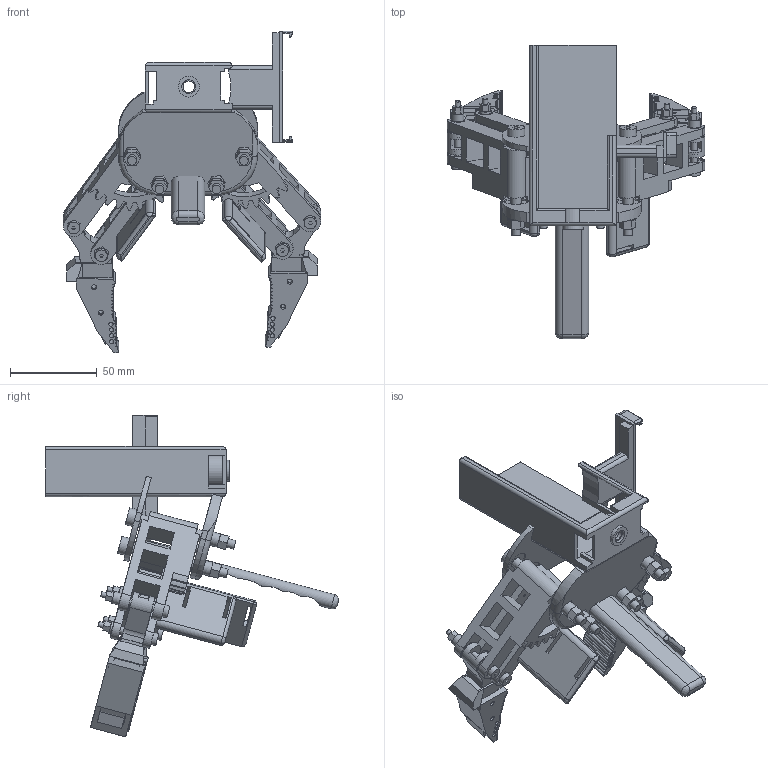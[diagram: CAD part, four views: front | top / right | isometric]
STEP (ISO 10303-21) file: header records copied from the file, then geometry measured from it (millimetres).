
FILE_DESCRIPTION(('Open CASCADE Model'),'2;1');
FILE_NAME('Open CASCADE Shape Model','2026-11-14T12:29:53',('Author'),( 'Open CASCADE'),'Open CASCADE STEP processor 8.0','Open CASCADE 8.0' ,'Unknown');
FILE_SCHEMA(('AUTOMOTIVE_DESIGN { 1 0 10303 214 1 1 1 1 }'));
Length unit declared in the file: millimetre
Products named in the file (28): genumi-flexiv-gn01-with-pivot-fasteners; handheld-body; handheld-body-section-a; Open CASCADE STEP translator 8.0 1.1.1.1; d435-vive-tracker-bracket; Open CASCADE STEP translator 8.0 1.1.2; left-drive-gear-and-bearing; left-drive-gear-and-bearing-integrated-part; right-drive-gear-and-bearing; right-drive-gear-and-bearing-integrated-part; right-hand-left-finger-inner-link; right-hand-right-finger-inner-link; left-fingertip; left-fingertip-integrated-part; left-tpu-fingertip; right-tpu-fingertip; insta360-quick-release-spacer; shoulder-screw-d6-l50-m5; shoulder-spacer-d6-8.3mm; m5-locknut; stepped-shoulder-screw-d6-d5p45-l50-m5; shoulder-spacer-d5p45-8.3mm; pivot-reducer-bushing-d6p35-d5p52-1p8mm; shoulder-screw-d4-l30-m3; shoulder-spacer-d4-4.3mm; m3-locknut; shoulder-screw-d4-l25-m3; shoulder-spacer-d4-1.3mm
Assembly tree (42 placements, depth 4):
  genumi-flexiv-gn01-with-pivot-fasteners
    handheld-body
      handheld-body-section-a
        Open CASCADE STEP translator 8.0 1.1.1.1
        d435-vive-tracker-bracket
      Open CASCADE STEP translator 8.0 1.1.2
    left-drive-gear-and-bearing
      left-drive-gear-and-bearing-integrated-part
    right-drive-gear-and-bearing
      right-drive-gear-and-bearing-integrated-part
    right-hand-left-finger-inner-link
    right-hand-right-finger-inner-link
    left-fingertip  x2
      left-fingertip-integrated-part
    left-tpu-fingertip
    right-tpu-fingertip
    insta360-quick-release-spacer
    shoulder-screw-d6-l50-m5  x3
    shoulder-spacer-d6-8.3mm  x3
    m5-locknut  x4
    stepped-shoulder-screw-d6-d5p45-l50-m5
    shoulder-spacer-d5p45-8.3mm
    pivot-reducer-bushing-d6p35-d5p52-1p8mm
    shoulder-screw-d4-l30-m3  x2
    shoulder-spacer-d4-4.3mm  x2
    m3-locknut  x4
    shoulder-screw-d4-l25-m3  x2
    shoulder-spacer-d4-1.3mm  x2
Bounding box: 148.31 x 168.8 x 185.44 mm (x, y, z)
Volume: 217199.4 mm3; surface area: 147153.6 mm2
Topology: 37 solids, 37 shells, 1099 faces, 2834 edges, 1861 vertices
Faces by surface type: plane 694, cylinder 397, revolution 6, torus 2
Full cylindrical faces by diameter (mm): 1.5 x1, 2.5 x8, 3 x20, 4 x6, 4.1 x14, 4.12 x4, 5 x8, 5.45 x1, 5.52 x1, 5.62 x1, 6 x4, 6.12 x3, 6.16 x4, 6.35 x1, 6.4 x8, 6.6 x3, 7 x10, 7.9 x4, 8 x6, 10 x4, 10.5 x16, 12 x2, 14 x6, 18 x1
Entity records: 64242 total; most frequent: CARTESIAN_POINT 15137, DIRECTION 9234, LINE 5560, VECTOR 5560, ORIENTED_EDGE 4808, PCURVE 4808, DEFINITIONAL_REPRESENTATION 4808, EDGE_CURVE 2404
